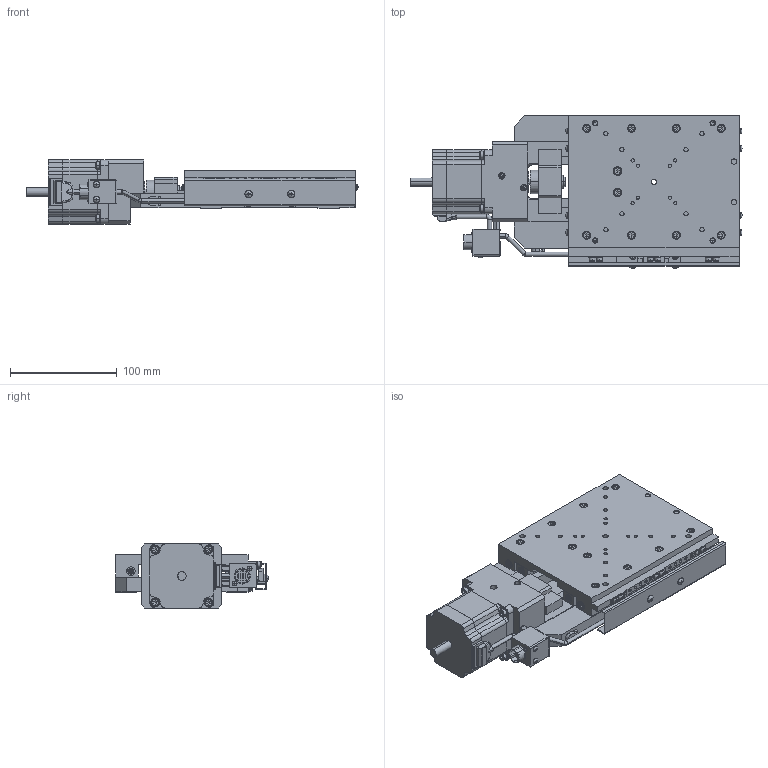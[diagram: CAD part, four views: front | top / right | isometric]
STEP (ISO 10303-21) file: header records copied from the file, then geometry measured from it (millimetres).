
FILE_DESCRIPTION (( 'STEP AP203' ), '1' );
FILE_NAME ('XA16A-R101.STEP', '2019-03-01T08:01:33', ( '' ), ( '' ), 'SwSTEP 2.0', 'SolidWorks 2018', '' );
FILE_SCHEMA (( 'CONFIG_CONTROL_DESIGN' ));
Length unit declared in the file: millimetre
Products named in the file (3): base; table; XA16A-R101
Assembly tree (2 placements, depth 2):
  XA16A-R101
    table
    base
Bounding box: 310.98 x 143.09 x 60 mm (x, y, z)
Volume: 960717.9 mm3; surface area: 207157.8 mm2
Topology: 2 solids, 2 shells, 2340 faces, 5757 edges, 3546 vertices
Faces by surface type: plane 1385, cylinder 593, cone 276, torus 34, sphere 32, bspline 20
Entity records: 69661 total; most frequent: CARTESIAN_POINT 13101, DIRECTION 12216, ORIENTED_EDGE 11346, EDGE_CURVE 5673, AXIS2_PLACEMENT_3D 4363, VERTEX_POINT 3546, LINE 3490, VECTOR 3490
